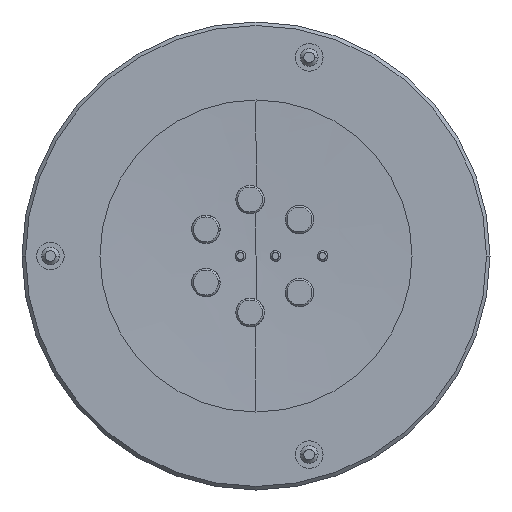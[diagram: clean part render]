
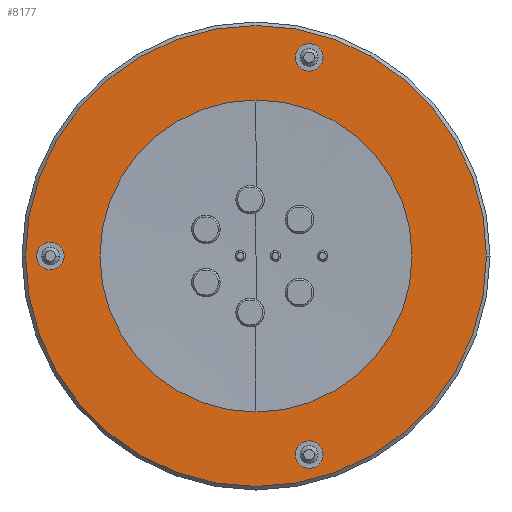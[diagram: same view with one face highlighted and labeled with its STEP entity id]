
A CAD part, left-side view. The second image highlights one B-rep face of the part: STEP entity #8177.
In plain terms, the highlighted planar face has unit normal (-1, 0, 0).
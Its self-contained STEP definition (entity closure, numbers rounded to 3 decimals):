
#104=CARTESIAN_POINT('',(-12.5,0.,0.));
#105=DIRECTION('',(1.,0.,0.));
#106=DIRECTION('',(0.,1.,0.));
#107=AXIS2_PLACEMENT_3D('',#104,#105,#106);
#109=CARTESIAN_POINT('',(-12.5,0.,0.));
#110=DIRECTION('',(1.,0.,0.));
#111=DIRECTION('',(0.,0.,1.));
#112=AXIS2_PLACEMENT_3D('',#109,#110,#111);
#114=CARTESIAN_POINT('',(-12.5,0.,0.));
#115=DIRECTION('',(1.,0.,0.));
#116=DIRECTION('',(0.,-1.,0.));
#117=AXIS2_PLACEMENT_3D('',#114,#115,#116);
#119=CARTESIAN_POINT('',(-12.5,0.,0.));
#120=DIRECTION('',(1.,0.,0.));
#121=DIRECTION('',(0.,0.,-1.));
#122=AXIS2_PLACEMENT_3D('',#119,#120,#121);
#124=CARTESIAN_POINT('',(-12.5,-1.501,5.602));
#125=DIRECTION('',(-1.,0.,0.));
#126=DIRECTION('',(0.,-1.,0.));
#127=AXIS2_PLACEMENT_3D('',#124,#125,#126);
#129=CARTESIAN_POINT('',(-12.5,-1.501,5.602));
#130=DIRECTION('',(-1.,0.,0.));
#131=DIRECTION('',(0.,1.,0.));
#132=AXIS2_PLACEMENT_3D('',#129,#130,#131);
#134=CARTESIAN_POINT('',(-12.5,-1.501,-5.602));
#135=DIRECTION('',(-1.,0.,0.));
#136=DIRECTION('',(0.,-1.,0.));
#137=AXIS2_PLACEMENT_3D('',#134,#135,#136);
#139=CARTESIAN_POINT('',(-12.5,-1.501,-5.602));
#140=DIRECTION('',(-1.,0.,0.));
#141=DIRECTION('',(0.,1.,0.));
#142=AXIS2_PLACEMENT_3D('',#139,#140,#141);
#144=CARTESIAN_POINT('',(-12.5,5.8,0.));
#145=DIRECTION('',(-1.,0.,0.));
#146=DIRECTION('',(0.,-1.,0.));
#147=AXIS2_PLACEMENT_3D('',#144,#145,#146);
#149=CARTESIAN_POINT('',(-12.5,5.8,0.));
#150=DIRECTION('',(-1.,0.,0.));
#151=DIRECTION('',(0.,1.,0.));
#152=AXIS2_PLACEMENT_3D('',#149,#150,#151);
#154=CARTESIAN_POINT('',(-12.5,0.,0.));
#155=DIRECTION('',(-1.,0.,0.));
#156=DIRECTION('',(0.,-1.,0.));
#157=AXIS2_PLACEMENT_3D('',#154,#155,#156);
#159=CARTESIAN_POINT('',(-12.5,0.,0.));
#160=DIRECTION('',(-1.,0.,0.));
#161=DIRECTION('',(0.,1.,0.));
#162=AXIS2_PLACEMENT_3D('',#159,#160,#161);
#6938=CARTESIAN_POINT('',(-12.5,-1.111,5.602));
#6939=CARTESIAN_POINT('',(-12.5,-1.891,5.602));
#6940=VERTEX_POINT('',#6938);
#6941=VERTEX_POINT('',#6939);
#6942=CARTESIAN_POINT('',(-12.5,0.,6.5));
#6943=CARTESIAN_POINT('',(-12.5,-6.5,0.));
#6944=VERTEX_POINT('',#6942);
#6945=VERTEX_POINT('',#6943);
#6946=CARTESIAN_POINT('',(-12.5,6.5,0.));
#6947=VERTEX_POINT('',#6946);
#6948=CARTESIAN_POINT('',(-12.5,0.,-6.5));
#6949=VERTEX_POINT('',#6948);
#6950=CARTESIAN_POINT('',(-12.5,-1.891,-5.602));
#6951=CARTESIAN_POINT('',(-12.5,-1.111,-5.602));
#6952=VERTEX_POINT('',#6950);
#6953=VERTEX_POINT('',#6951);
#6954=CARTESIAN_POINT('',(-12.5,5.41,0.));
#6955=CARTESIAN_POINT('',(-12.5,6.19,0.));
#6956=VERTEX_POINT('',#6954);
#6957=VERTEX_POINT('',#6955);
#6958=CARTESIAN_POINT('',(-12.5,-4.4,0.));
#6959=CARTESIAN_POINT('',(-12.5,4.4,0.));
#6960=VERTEX_POINT('',#6958);
#6961=VERTEX_POINT('',#6959);
#8139=CARTESIAN_POINT('',(-12.5,0.,0.));
#8140=DIRECTION('',(1.,0.,0.));
#8141=DIRECTION('',(0.,-1.,0.));
#8142=AXIS2_PLACEMENT_3D('',#8139,#8140,#8141);
#8143=PLANE('',#8142);
#8145=ORIENTED_EDGE('',*,*,#8144,.T.);
#8147=ORIENTED_EDGE('',*,*,#8146,.T.);
#8149=ORIENTED_EDGE('',*,*,#8148,.T.);
#8151=ORIENTED_EDGE('',*,*,#8150,.T.);
#8152=EDGE_LOOP('',(#8145,#8147,#8149,#8151));
#8153=FACE_OUTER_BOUND('',#8152,.F.);
#8155=ORIENTED_EDGE('',*,*,#8154,.T.);
#8156=ORIENTED_EDGE('',*,*,#8122,.T.);
#8157=EDGE_LOOP('',(#8155,#8156));
#8158=FACE_BOUND('',#8157,.F.);
#8160=ORIENTED_EDGE('',*,*,#8159,.T.);
#8162=ORIENTED_EDGE('',*,*,#8161,.T.);
#8163=EDGE_LOOP('',(#8160,#8162));
#8164=FACE_BOUND('',#8163,.F.);
#8166=ORIENTED_EDGE('',*,*,#8165,.T.);
#8168=ORIENTED_EDGE('',*,*,#8167,.T.);
#8169=EDGE_LOOP('',(#8166,#8168));
#8170=FACE_BOUND('',#8169,.F.);
#8172=ORIENTED_EDGE('',*,*,#8171,.T.);
#8174=ORIENTED_EDGE('',*,*,#8173,.T.);
#8175=EDGE_LOOP('',(#8172,#8174));
#8176=FACE_BOUND('',#8175,.F.);
#108=CIRCLE('',#107,6.5);
#113=CIRCLE('',#112,6.5);
#118=CIRCLE('',#117,6.5);
#123=CIRCLE('',#122,6.5);
#128=CIRCLE('',#127,0.39);
#133=CIRCLE('',#132,0.39);
#138=CIRCLE('',#137,0.39);
#143=CIRCLE('',#142,0.39);
#148=CIRCLE('',#147,0.39);
#153=CIRCLE('',#152,0.39);
#158=CIRCLE('',#157,4.4);
#163=CIRCLE('',#162,4.4);
#8122=EDGE_CURVE('',#6940,#6941,#133,.T.);
#8144=EDGE_CURVE('',#6947,#6944,#108,.T.);
#8146=EDGE_CURVE('',#6944,#6945,#113,.T.);
#8148=EDGE_CURVE('',#6945,#6949,#118,.T.);
#8150=EDGE_CURVE('',#6949,#6947,#123,.T.);
#8154=EDGE_CURVE('',#6941,#6940,#128,.T.);
#8159=EDGE_CURVE('',#6952,#6953,#138,.T.);
#8161=EDGE_CURVE('',#6953,#6952,#143,.T.);
#8165=EDGE_CURVE('',#6956,#6957,#148,.T.);
#8167=EDGE_CURVE('',#6957,#6956,#153,.T.);
#8171=EDGE_CURVE('',#6960,#6961,#158,.T.);
#8173=EDGE_CURVE('',#6961,#6960,#163,.T.);
#8177=ADVANCED_FACE('',(#8153,#8158,#8164,#8170,#8176),#8143,.F.);
